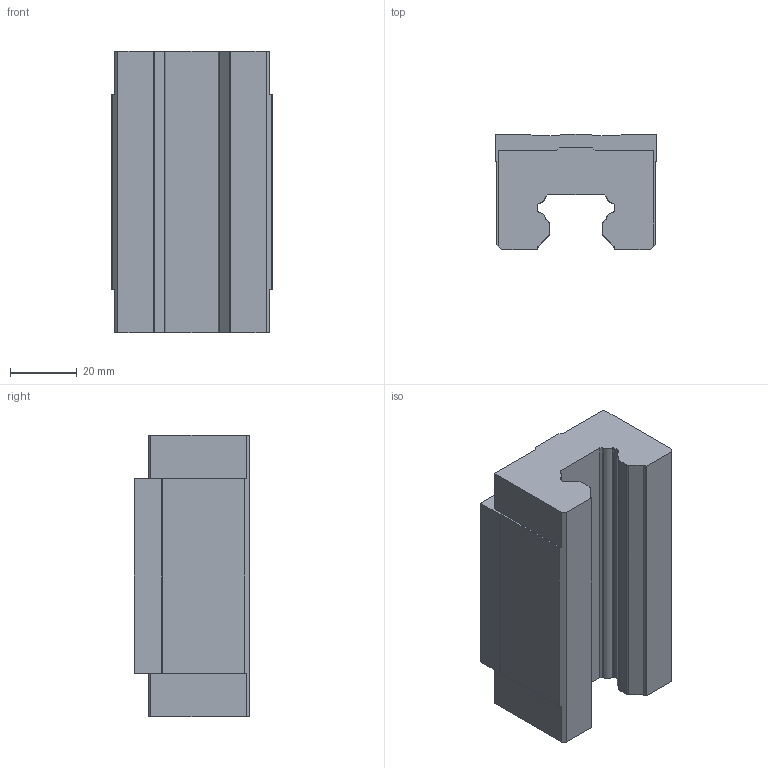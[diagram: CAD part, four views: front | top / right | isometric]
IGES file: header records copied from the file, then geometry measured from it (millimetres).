
Start section: SolidWorks IGES file using analytic representation for surfaces
Global section: file name: D:\SOLIDWORKS PROEKTI\freelance cnc cat\CETVRTA SERIJA\HGH\HGH25CA.IGS; native system: SolidWorks 2016; preprocessor: SolidWorks 2016; author: User; date: 170813.075448; units: millimetre
Bounding box: 48 x 34.5 x 84 mm (x, y, z)
Surface area: 19670.9 mm2 (no closed solid volume)
Topology: 0 solids, 0 shells, 172 faces, 2281 edges, 2758 vertices
Faces by surface type: bspline 142, revolution 30
